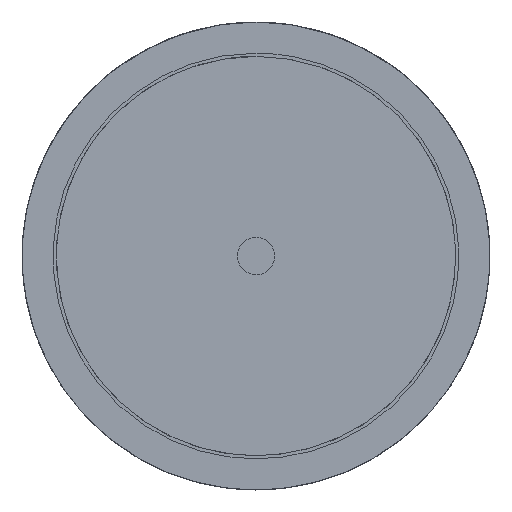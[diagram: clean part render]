
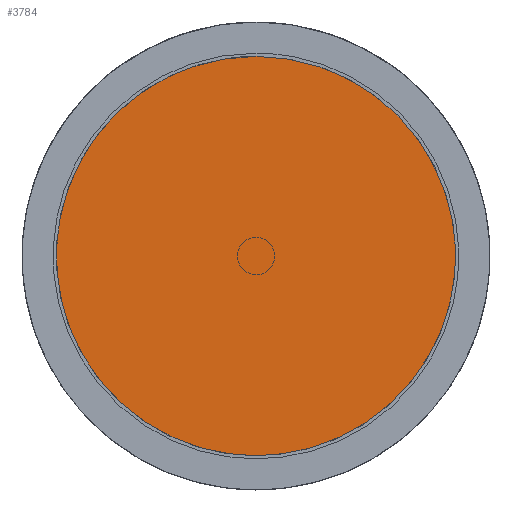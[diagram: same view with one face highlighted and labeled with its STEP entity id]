
A CAD part, front view. The second image highlights one B-rep face of the part: STEP entity #3784.
In plain terms, the highlighted free-form (B-spline) face has degree [1, 1] with [2, 2] control points.
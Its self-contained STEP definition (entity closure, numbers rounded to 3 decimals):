
#3633 = EDGE_CURVE('',#3634,#3634,#3636,.T.);
#3634 = VERTEX_POINT('',#3635);
#3635 = CARTESIAN_POINT('',(-80.,-457.384,47429.491));
#3636 = SURFACE_CURVE('',#3637,(#3647,#3673),.PCURVE_S1.);
#3637 = ( BOUNDED_CURVE() B_SPLINE_CURVE(2,(#3638,#3639,#3640,#3641,
    #3642,#3643,#3644,#3645,#3646),.UNSPECIFIED.,.T.,.F.) 
B_SPLINE_CURVE_WITH_KNOTS((3,2,2,2,3),(-3.142,-1.571,0.
,1.571,3.142),.UNSPECIFIED.) CURVE() 
GEOMETRIC_REPRESENTATION_ITEM() RATIONAL_B_SPLINE_CURVE((1.,
    0.707,1.,0.707,1.,0.707,1.,0.707
,1.)) REPRESENTATION_ITEM('') );
#3638 = CARTESIAN_POINT('',(-80.,-457.384,47429.491));
#3639 = CARTESIAN_POINT('',(-144.,-457.384,47429.491));
#3640 = CARTESIAN_POINT('',(-144.,-457.384,47365.491));
#3641 = CARTESIAN_POINT('',(-144.,-457.384,47301.491));
#3642 = CARTESIAN_POINT('',(-80.,-457.384,47301.491));
#3643 = CARTESIAN_POINT('',(-16.,-457.384,47301.491));
#3644 = CARTESIAN_POINT('',(-16.,-457.384,47365.491));
#3645 = CARTESIAN_POINT('',(-16.,-457.384,47429.491));
#3646 = CARTESIAN_POINT('',(-80.,-457.384,47429.491));
#3647 = PCURVE('',#3648,#3667);
#3648 = ( BOUNDED_SURFACE() B_SPLINE_SURFACE(1,2,(
    (#3649,#3650,#3651,#3652,#3653,#3654,#3655,#3656,#3657)
    ,(#3658,#3659,#3660,#3661,#3662,#3663,#3664,#3665,#3666
)),.UNSPECIFIED.,.F.,.T.,.F.) B_SPLINE_SURFACE_WITH_KNOTS((2,2),(1,2,2,2
    ,2,2,1),(0.,0.219),(-4.712,-3.142,-1.571
    ,0.,1.571,3.142,4.712),.UNSPECIFIED.) 
GEOMETRIC_REPRESENTATION_ITEM() RATIONAL_B_SPLINE_SURFACE((
    (1.,0.707,1.,0.707,1.,0.707,1.
      ,0.707,1.)
    ,(1.,0.707,1.,0.707,1.,0.707,1.
,0.707,1.))) REPRESENTATION_ITEM('') SURFACE() );
#3649 = CARTESIAN_POINT('',(-80.,-457.384,47429.491));
#3650 = CARTESIAN_POINT('',(-144.,-457.384,47429.491));
#3651 = CARTESIAN_POINT('',(-144.,-457.384,47365.491));
#3652 = CARTESIAN_POINT('',(-144.,-457.384,47301.491));
#3653 = CARTESIAN_POINT('',(-80.,-457.384,47301.491));
#3654 = CARTESIAN_POINT('',(-16.,-457.384,47301.491));
#3655 = CARTESIAN_POINT('',(-16.,-457.384,47365.491));
#3656 = CARTESIAN_POINT('',(-16.,-457.384,47429.491));
#3657 = CARTESIAN_POINT('',(-80.,-457.384,47429.491));
#3658 = CARTESIAN_POINT('',(-80.,-471.384,47429.491));
#3659 = CARTESIAN_POINT('',(-144.,-471.384,47429.491));
#3660 = CARTESIAN_POINT('',(-144.,-471.384,47365.491));
#3661 = CARTESIAN_POINT('',(-144.,-471.384,47301.491));
#3662 = CARTESIAN_POINT('',(-80.,-471.384,47301.491));
#3663 = CARTESIAN_POINT('',(-16.,-471.384,47301.491));
#3664 = CARTESIAN_POINT('',(-16.,-471.384,47365.491));
#3665 = CARTESIAN_POINT('',(-16.,-471.384,47429.491));
#3666 = CARTESIAN_POINT('',(-80.,-471.384,47429.491));
#3667 = DEFINITIONAL_REPRESENTATION('',(#3668),#3672);
#3668 = LINE('',#3669,#3670);
#3669 = CARTESIAN_POINT('',(0.,0.));
#3670 = VECTOR('',#3671,1.);
#3671 = DIRECTION('',(0.,1.));
#3672 = ( GEOMETRIC_REPRESENTATION_CONTEXT(2) 
PARAMETRIC_REPRESENTATION_CONTEXT() REPRESENTATION_CONTEXT('2D SPACE',''
  ) );
#3673 = PCURVE('',#3674,#3679);
#3674 = B_SPLINE_SURFACE_WITH_KNOTS('',1,1,(
    (#3675,#3676)
    ,(#3677,#3678
    )),.UNSPECIFIED.,.F.,.F.,.F.,(2,2),(2,2),(-64.001,64.001),(-64.001,
    64.001),.PIECEWISE_BEZIER_KNOTS.);
#3675 = CARTESIAN_POINT('',(-144.001,-457.384,47301.49)
  );
#3676 = CARTESIAN_POINT('',(-144.001,-457.384,47429.492)
  );
#3677 = CARTESIAN_POINT('',(-15.999,-457.384,47301.49)
  );
#3678 = CARTESIAN_POINT('',(-15.999,-457.384,47429.492)
  );
#3679 = DEFINITIONAL_REPRESENTATION('',(#3680),#3706);
#3680 = B_SPLINE_CURVE_WITH_KNOTS('',3,(#3681,#3682,#3683,#3684,#3685,
    #3686,#3687,#3688,#3689,#3690,#3691,#3692,#3693,#3694,#3695,#3696,
    #3697,#3698,#3699,#3700,#3701,#3702,#3703,#3704,#3705),
  .UNSPECIFIED.,.T.,.F.,(4,1,1,1,1,1,1,1,1,1,1,1,1,1,1,1,1,1,1,1,1,1,4),
  (-3.142,-2.856,-2.57,-2.285,
    -1.999,-1.714,-1.428,-1.142,
    -0.857,-0.571,-0.286,0.,0.286,
    0.571,0.857,1.142,1.428,
    1.714,1.999,2.285,2.57,
    2.856,3.142),.UNSPECIFIED.);
#3681 = CARTESIAN_POINT('',(0.,64.));
#3682 = CARTESIAN_POINT('',(-5.45,64.102));
#3683 = CARTESIAN_POINT('',(-17.085,62.526));
#3684 = CARTESIAN_POINT('',(-34.431,55.101));
#3685 = CARTESIAN_POINT('',(-49.303,42.33));
#3686 = CARTESIAN_POINT('',(-59.539,25.917));
#3687 = CARTESIAN_POINT('',(-64.225,8.194));
#3688 = CARTESIAN_POINT('',(-64.225,-8.194));
#3689 = CARTESIAN_POINT('',(-59.541,-25.916));
#3690 = CARTESIAN_POINT('',(-49.296,-42.334));
#3691 = CARTESIAN_POINT('',(-34.457,-55.088));
#3692 = CARTESIAN_POINT('',(-16.987,-62.573));
#3693 = CARTESIAN_POINT('',(0.,-64.713));
#3694 = CARTESIAN_POINT('',(16.987,-62.573));
#3695 = CARTESIAN_POINT('',(34.457,-55.088));
#3696 = CARTESIAN_POINT('',(49.296,-42.334));
#3697 = CARTESIAN_POINT('',(59.541,-25.916));
#3698 = CARTESIAN_POINT('',(64.225,-8.194));
#3699 = CARTESIAN_POINT('',(64.225,8.194));
#3700 = CARTESIAN_POINT('',(59.539,25.917));
#3701 = CARTESIAN_POINT('',(49.303,42.33));
#3702 = CARTESIAN_POINT('',(34.431,55.101));
#3703 = CARTESIAN_POINT('',(17.085,62.526));
#3704 = CARTESIAN_POINT('',(5.45,64.102));
#3705 = CARTESIAN_POINT('',(0.,64.));
#3706 = ( GEOMETRIC_REPRESENTATION_CONTEXT(2) 
PARAMETRIC_REPRESENTATION_CONTEXT() REPRESENTATION_CONTEXT('2D SPACE',''
  ) );
#3784 = ADVANCED_FACE('',(#3785),#3674,.T.);
#3785 = FACE_BOUND('',#3786,.T.);
#3786 = EDGE_LOOP('',(#3787));
#3787 = ORIENTED_EDGE('',*,*,#3633,.T.);
